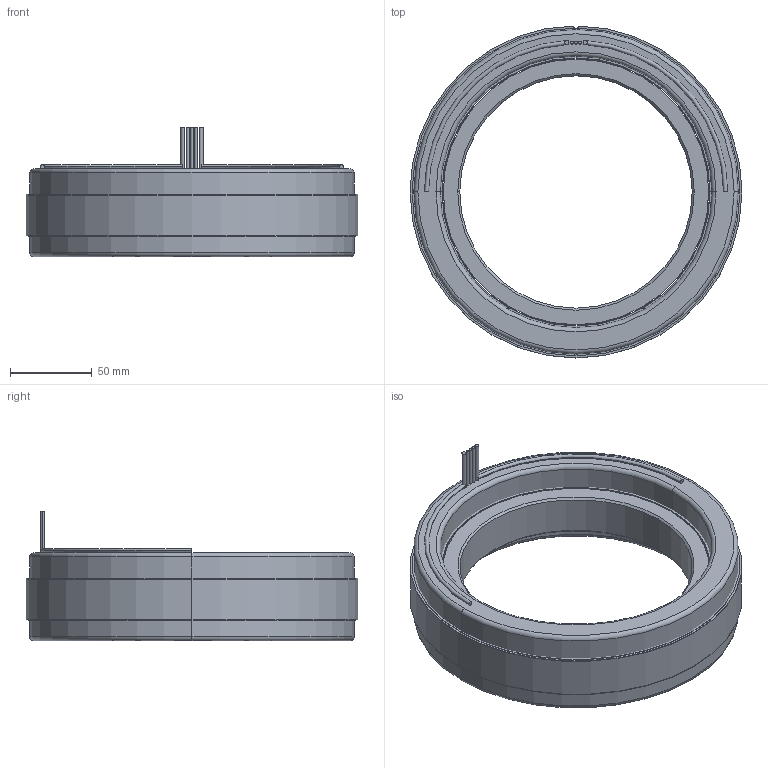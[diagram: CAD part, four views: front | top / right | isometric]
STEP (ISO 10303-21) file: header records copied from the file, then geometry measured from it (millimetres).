
FILE_DESCRIPTION (( 'STEP AP214' ), '1' );
FILE_NAME ('6100326-02.STEP', '2019-10-23T23:24:35', ( '' ), ( '' ), 'SwSTEP 2.0', 'SolidWorks 2016', '' );
FILE_SCHEMA (( 'AUTOMOTIVE_DESIGN' ));
Length unit declared in the file: millimetre
Products named in the file (11): 4400075-00; 4450161-XX_4450161-02; 6100326-02; 4250358-XX_4250358-02; 4150150-XX_4150150-02; 4500534-XX_4500534-02; COMP4500534-XX(COIL)_COMP4500534-02; 4600534-00
Assembly tree (10 placements, depth 4):
  6100326-02
    4500534-XX_4500534-02
      4450161-XX_4450161-02
        4450161-XX_4450161-02
        4400075-00
        4400075-00
        4600534-00
        4600534-00
      COMP4500534-XX(COIL)_COMP4500534-02
    4250358-XX_4250358-02
      4150150-XX_4150150-02
Bounding box: 203.2 x 203.19 x 79.25 mm (x, y, z)
Volume: 911313 mm3; surface area: 254008.6 mm2
Topology: 14 solids, 14 shells, 94 faces, 186 edges, 120 vertices
Faces by surface type: cylinder 50, plane 28, torus 12, cone 4
Entity records: 2985 total; most frequent: DIRECTION 538, CARTESIAN_POINT 416, ORIENTED_EDGE 372, AXIS2_PLACEMENT_3D 242, EDGE_CURVE 186, CIRCLE 132, VERTEX_POINT 120, EDGE_LOOP 108
